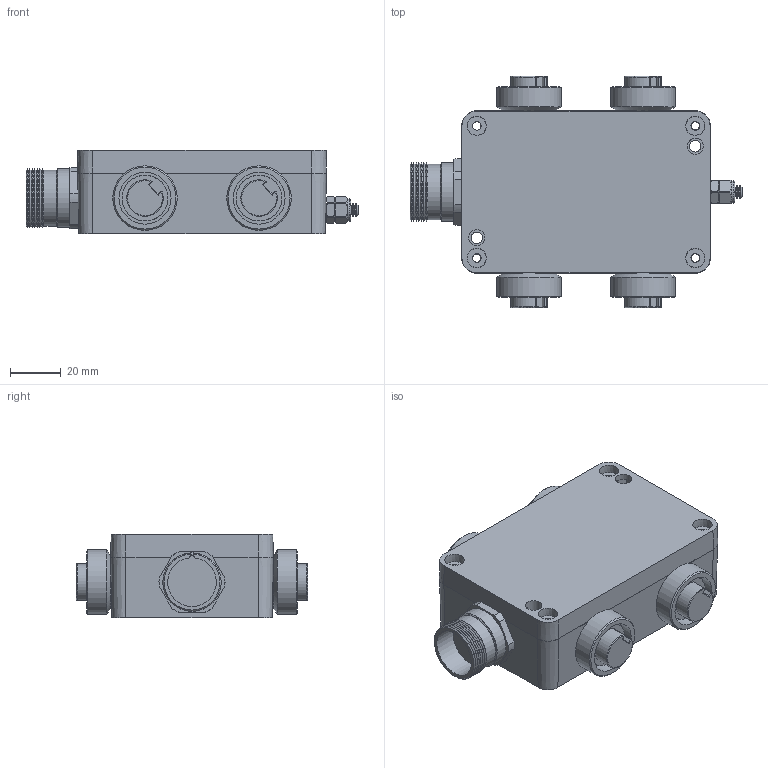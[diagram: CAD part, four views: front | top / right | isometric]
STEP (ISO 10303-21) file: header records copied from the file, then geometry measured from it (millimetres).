
FILE_DESCRIPTION(/* description */ ('PART (MM)'),/* implementation_level */ '2;1');
FILE_NAME(/* name */ 'L:\CAD Inventor\Workspace\Catalogs\TURCK BOXES\P-4RKF-CS19.stp',/* time_stamp */ '2021-06-28T09:59:27-05:00',/* author */ ('RSwans'),/* organization */ (''),/* preprocessor_version */ 'ST-DEVELOPER v16.5',/* originating_system */ 'Autodesk Inventor 2017',/* authorisation */ '');
FILE_SCHEMA (('AUTOMOTIVE_DESIGN { 1 0 10303 214 3 1 1 }'));
Length unit declared in the file: millimetre
Products named in the file (1): P-4 RKF-CS
Bounding box: 130.7 x 91 x 32.8 mm (x, y, z)
Volume: 94969.6 mm3; surface area: 59775.6 mm2
Topology: 1 solids, 8 shells, 563 faces, 1461 edges, 949 vertices
Faces by surface type: plane 250, cylinder 170, cone 130, sphere 8, torus 5
Full cylindrical faces by diameter (mm): 3.2 x2, 3.3 x2, 3.4 x4, 3.861 x2, 4.13 x3, 4.5 x4, 5 x2, 6.4 x2, 6.502 x1, 7 x4, 8 x2, 8.6 x2, 8.89 x1, 18 x5, 20 x4, 20.5 x4, 21.974 x1, 22.5 x4, 23 x1, 25.4 x4
Entity records: 16067 total; most frequent: DIRECTION 2871, CARTESIAN_POINT 2757, ORIENTED_EDGE 2430, EDGE_CURVE 1215, AXIS2_PLACEMENT_3D 1141, VERTEX_POINT 864, EDGE_LOOP 801, LINE 589
